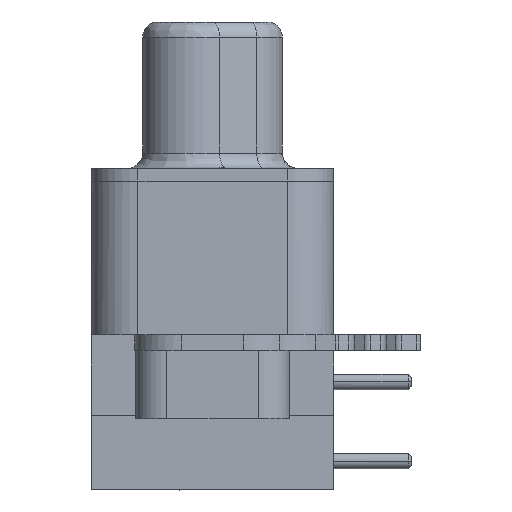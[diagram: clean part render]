
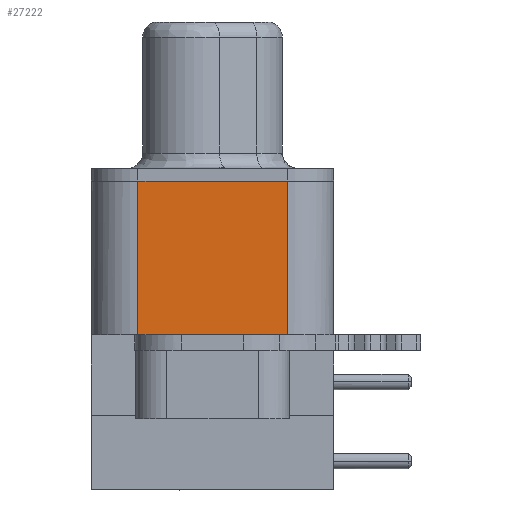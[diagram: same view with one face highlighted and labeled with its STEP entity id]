
A CAD part, left-side view. The second image highlights one B-rep face of the part: STEP entity #27222.
In plain terms, the highlighted planar face has unit normal (-1, 0, 0).
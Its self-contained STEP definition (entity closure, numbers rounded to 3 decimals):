
#53 = EDGE_CURVE ( 'NONE', #836, #27239, #35803, .T. ) ;
#836 = VERTEX_POINT ( 'NONE', #15180 ) ;
#1449 = CARTESIAN_POINT ( 'NONE',  ( 0., 2.4, 0. ) ) ;
#3279 = VECTOR ( 'NONE', #32124, 1000. ) ;
#3656 = DIRECTION ( 'NONE',  ( 0., 0., -1. ) ) ;
#3729 = LINE ( 'NONE', #42568, #31616 ) ;
#7803 = LINE ( 'NONE', #21893, #3279 ) ;
#8142 = ORIENTED_EDGE ( 'NONE', *, *, #10392, .T. ) ;
#8522 = PLANE ( 'NONE',  #26325 ) ;
#9132 = ORIENTED_EDGE ( 'NONE', *, *, #31975, .F. ) ;
#9781 = VERTEX_POINT ( 'NONE', #37692 ) ;
#10392 = EDGE_CURVE ( 'NONE', #9781, #27239, #7803, .T. ) ;
#11028 = CARTESIAN_POINT ( 'NONE',  ( 0., -2.4, -2.475 ) ) ;
#12085 = ORIENTED_EDGE ( 'NONE', *, *, #28715, .T. ) ;
#14969 = DIRECTION ( 'NONE',  ( 1., 0., 0. ) ) ;
#15180 = CARTESIAN_POINT ( 'NONE',  ( 0., -2.4, 0. ) ) ;
#17888 = ORIENTED_EDGE ( 'NONE', *, *, #53, .F. ) ;
#18727 = DIRECTION ( 'NONE',  ( 0., 0., 1. ) ) ;
#19020 = CARTESIAN_POINT ( 'NONE',  ( 0., 0., -2.475 ) ) ;
#21893 = CARTESIAN_POINT ( 'NONE',  ( 0., 0., -4.95 ) ) ;
#26325 = AXIS2_PLACEMENT_3D ( 'NONE', #19020, #14969, #40226 ) ;
#26409 = CARTESIAN_POINT ( 'NONE',  ( 0., -2.4, -4.95 ) ) ;
#27222 = ADVANCED_FACE ( 'NONE', ( #37334 ), #8522, .F. ) ;
#27239 = VERTEX_POINT ( 'NONE', #26409 ) ;
#28259 = DIRECTION ( 'NONE',  ( 0., 1., 0. ) ) ;
#28715 = EDGE_CURVE ( 'NONE', #836, #30400, #3729, .T. ) ;
#30132 = CARTESIAN_POINT ( 'NONE',  ( 0., 2.4, 0.099 ) ) ;
#30400 = VERTEX_POINT ( 'NONE', #1449 ) ;
#31320 = VECTOR ( 'NONE', #3656, 1000. ) ;
#31616 = VECTOR ( 'NONE', #28259, 1000. ) ;
#31975 = EDGE_CURVE ( 'NONE', #9781, #30400, #32775, .T. ) ;
#32124 = DIRECTION ( 'NONE',  ( 0., -1., 0. ) ) ;
#32775 = LINE ( 'NONE', #30132, #43181 ) ;
#35803 = LINE ( 'NONE', #11028, #31320 ) ;
#37334 = FACE_OUTER_BOUND ( 'NONE', #44551, .T. ) ;
#37692 = CARTESIAN_POINT ( 'NONE',  ( 0., 2.4, -4.95 ) ) ;
#40226 = DIRECTION ( 'NONE',  ( 0., 0., -1. ) ) ;
#42568 = CARTESIAN_POINT ( 'NONE',  ( 0., 0., 0. ) ) ;
#43181 = VECTOR ( 'NONE', #18727, 1000. ) ;
#44551 = EDGE_LOOP ( 'NONE', ( #8142, #17888, #12085, #9132 ) ) ;
